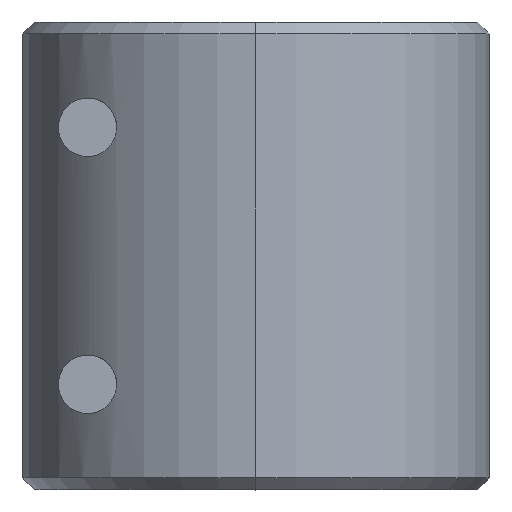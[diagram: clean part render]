
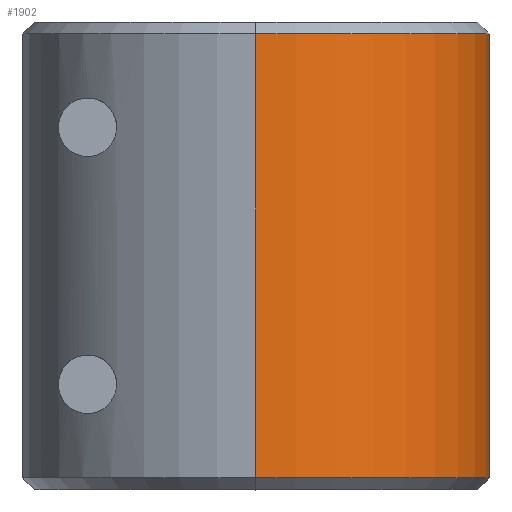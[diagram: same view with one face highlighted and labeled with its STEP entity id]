
A CAD part, top view. The second image highlights one B-rep face of the part: STEP entity #1902.
In plain terms, the highlighted cylindrical face has radius 10 mm (diameter 20 mm), a partial arc.
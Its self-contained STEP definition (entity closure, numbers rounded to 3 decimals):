
#27 = AXIS2_PLACEMENT_3D ( 'NONE', #2063, #2328, #2598 ) ;
#49 = CARTESIAN_POINT ( 'NONE',  ( 9.86, 10.25, -1.667 ) ) ;
#73 = ORIENTED_EDGE ( 'NONE', *, *, #1684, .F. ) ;
#113 = CARTESIAN_POINT ( 'NONE',  ( 0., 19.75, -10. ) ) ;
#150 = VERTEX_POINT ( 'NONE', #852 ) ;
#198 = CARTESIAN_POINT ( 'NONE',  ( 9.86, 10.75, -1.667 ) ) ;
#289 = DIRECTION ( 'NONE',  ( 0., 0., 1. ) ) ;
#306 = ORIENTED_EDGE ( 'NONE', *, *, #456, .T. ) ;
#409 = DIRECTION ( 'NONE',  ( 0., 0., -1. ) ) ;
#416 = LINE ( 'NONE', #2050, #2935 ) ;
#436 = EDGE_CURVE ( 'NONE', #1996, #150, #797, .T. ) ;
#456 = EDGE_CURVE ( 'NONE', #550, #1996, #1295, .T. ) ;
#460 = CIRCLE ( 'NONE', #2907, 10. ) ;
#550 = VERTEX_POINT ( 'NONE', #1638 ) ;
#559 = CARTESIAN_POINT ( 'NONE',  ( 0., 19.75, 10. ) ) ;
#646 = DIRECTION ( 'NONE',  ( 0., 1., 0. ) ) ;
#663 = ORIENTED_EDGE ( 'NONE', *, *, #2107, .T. ) ;
#741 = ORIENTED_EDGE ( 'NONE', *, *, #3374, .T. ) ;
#767 = DIRECTION ( 'NONE',  ( 0., 1., 0. ) ) ;
#797 = LINE ( 'NONE', #2038, #1385 ) ;
#852 = CARTESIAN_POINT ( 'NONE',  ( 0., 9.75, -10. ) ) ;
#1040 = EDGE_CURVE ( 'NONE', #2981, #1738, #460, .T. ) ;
#1150 = DIRECTION ( 'NONE',  ( 0., 1., 0. ) ) ;
#1153 = DIRECTION ( 'NONE',  ( 0., 0., 1. ) ) ;
#1184 = CARTESIAN_POINT ( 'NONE',  ( 0., 0., 0. ) ) ;
#1295 = CIRCLE ( 'NONE', #27, 10. ) ;
#1332 = AXIS2_PLACEMENT_3D ( 'NONE', #3358, #1150, #289 ) ;
#1385 = VECTOR ( 'NONE', #3192, 1000. ) ;
#1450 = AXIS2_PLACEMENT_3D ( 'NONE', #1184, #2805, #1153 ) ;
#1466 = CIRCLE ( 'NONE', #1332, 10. ) ;
#1473 = CARTESIAN_POINT ( 'NONE',  ( 0., 0., -10. ) ) ;
#1504 = DIRECTION ( 'NONE',  ( 0., 1., 0. ) ) ;
#1581 = VERTEX_POINT ( 'NONE', #198 ) ;
#1601 = VECTOR ( 'NONE', #646, 1000. ) ;
#1638 = CARTESIAN_POINT ( 'NONE',  ( 0., 0.75, 10. ) ) ;
#1684 = EDGE_CURVE ( 'NONE', #3301, #150, #3251, .T. ) ;
#1738 = VERTEX_POINT ( 'NONE', #559 ) ;
#1771 = VERTEX_POINT ( 'NONE', #2784 ) ;
#1810 = DIRECTION ( 'NONE',  ( 0., -1., 0. ) ) ;
#1833 = AXIS2_PLACEMENT_3D ( 'NONE', #2465, #767, #2727 ) ;
#1902 = ADVANCED_FACE ( 'NONE', ( #3376 ), #2240, .T. ) ;
#1949 = ORIENTED_EDGE ( 'NONE', *, *, #436, .T. ) ;
#1996 = VERTEX_POINT ( 'NONE', #3141 ) ;
#2038 = CARTESIAN_POINT ( 'NONE',  ( 0., 0., -10. ) ) ;
#2050 = CARTESIAN_POINT ( 'NONE',  ( 0., 0., 10. ) ) ;
#2063 = CARTESIAN_POINT ( 'NONE',  ( 0., 0.75, 0. ) ) ;
#2083 = ORIENTED_EDGE ( 'NONE', *, *, #2827, .F. ) ;
#2107 = EDGE_CURVE ( 'NONE', #3301, #1581, #2915, .T. ) ;
#2194 = VECTOR ( 'NONE', #1504, 1000. ) ;
#2240 = CYLINDRICAL_SURFACE ( 'NONE', #1450, 10. ) ;
#2328 = DIRECTION ( 'NONE',  ( 0., 1., 0. ) ) ;
#2348 = LINE ( 'NONE', #1473, #1601 ) ;
#2403 = ORIENTED_EDGE ( 'NONE', *, *, #1040, .T. ) ;
#2465 = CARTESIAN_POINT ( 'NONE',  ( 0., 9.75, 0. ) ) ;
#2540 = EDGE_LOOP ( 'NONE', ( #306, #1949, #73, #663, #3189, #741, #2403, #2083 ) ) ;
#2553 = CARTESIAN_POINT ( 'NONE',  ( 9.86, 9.75, -1.667 ) ) ;
#2598 = DIRECTION ( 'NONE',  ( 0., 0., 1. ) ) ;
#2614 = DIRECTION ( 'NONE',  ( 0., 1., 0. ) ) ;
#2727 = DIRECTION ( 'NONE',  ( 0., 0., 1. ) ) ;
#2784 = CARTESIAN_POINT ( 'NONE',  ( 0., 10.75, -10. ) ) ;
#2805 = DIRECTION ( 'NONE',  ( 0., 1., 0. ) ) ;
#2827 = EDGE_CURVE ( 'NONE', #550, #1738, #416, .T. ) ;
#2907 = AXIS2_PLACEMENT_3D ( 'NONE', #3475, #1810, #409 ) ;
#2915 = LINE ( 'NONE', #49, #2194 ) ;
#2935 = VECTOR ( 'NONE', #2614, 1000. ) ;
#2981 = VERTEX_POINT ( 'NONE', #113 ) ;
#3141 = CARTESIAN_POINT ( 'NONE',  ( 0., 0.75, -10. ) ) ;
#3189 = ORIENTED_EDGE ( 'NONE', *, *, #3268, .T. ) ;
#3192 = DIRECTION ( 'NONE',  ( 0., 1., 0. ) ) ;
#3251 = CIRCLE ( 'NONE', #1833, 10. ) ;
#3268 = EDGE_CURVE ( 'NONE', #1581, #1771, #1466, .T. ) ;
#3301 = VERTEX_POINT ( 'NONE', #2553 ) ;
#3358 = CARTESIAN_POINT ( 'NONE',  ( 0., 10.75, 0. ) ) ;
#3374 = EDGE_CURVE ( 'NONE', #1771, #2981, #2348, .T. ) ;
#3376 = FACE_OUTER_BOUND ( 'NONE', #2540, .T. ) ;
#3475 = CARTESIAN_POINT ( 'NONE',  ( 0., 19.75, 0. ) ) ;
